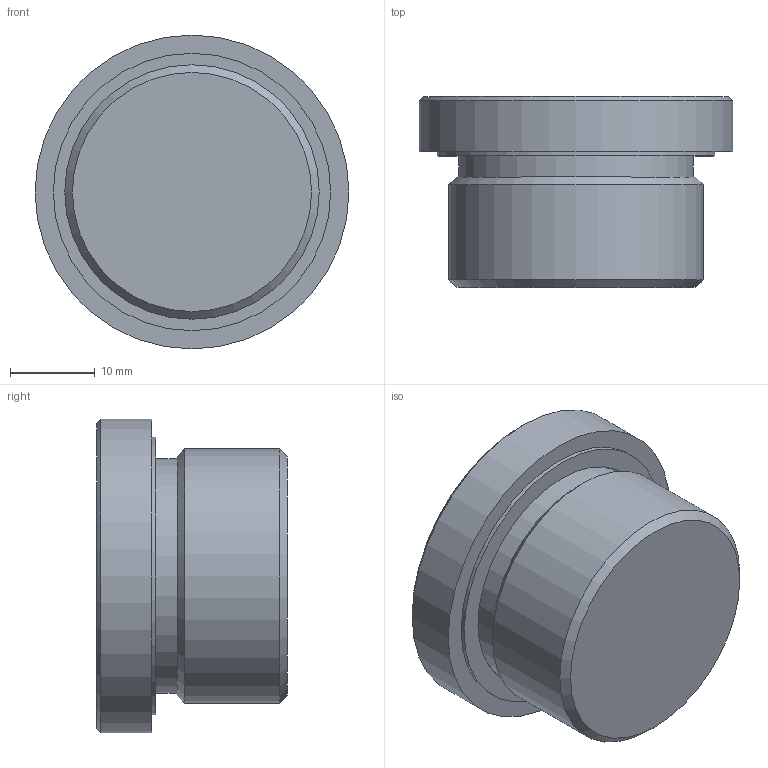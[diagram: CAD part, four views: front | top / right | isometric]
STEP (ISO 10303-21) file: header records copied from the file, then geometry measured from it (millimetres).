
FILE_DESCRIPTION( ( 'STEP AP203' ), '1' );
FILE_NAME( 'C:/Temp/Ganter_Step_05_03_2020/data/3_5/gn749/gn749_a/Threaded plug GN 749-M30x1,5-A.stp', '2020-03-12T13:41:36', ( 'License CC BY-ND 4.0' ), ( 'CADENAS' ), ' ', 'PARTsolutions', ' ' );
FILE_SCHEMA( ( 'CONFIG_CONTROL_DESIGN' ) );
Length unit declared in the file: millimetre
Products named in the file (1): _Threaded plug GN 749-M30x1,5-A
Bounding box: 37 x 22.5 x 37 mm (x, y, z)
Volume: 15503.7 mm3; surface area: 5149.3 mm2
Topology: 1 solids, 1 shells, 21 faces, 41 edges, 27 vertices
Faces by surface type: plane 13, cylinder 5, cone 3
Full cylindrical faces by diameter (mm): 27.7 x1, 28.1 x1, 30 x1, 32.7 x1, 37 x1
Entity records: 526 total; most frequent: DIRECTION 88, CARTESIAN_POINT 78, ORIENTED_EDGE 62, AXIS2_PLACEMENT_3D 35, EDGE_LOOP 34, EDGE_CURVE 31, FACE_OUTER_BOUND 26, VERTEX_POINT 25
